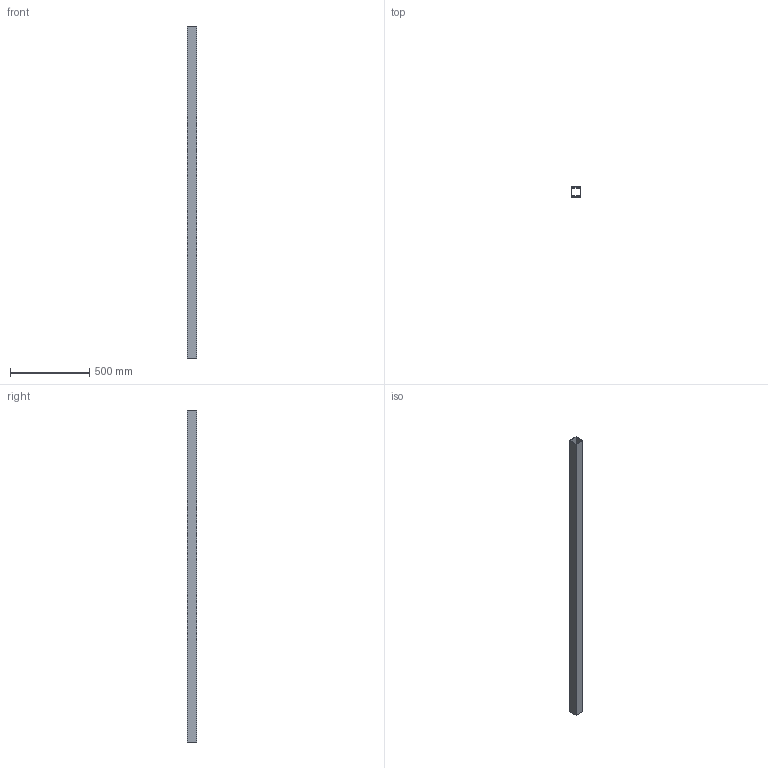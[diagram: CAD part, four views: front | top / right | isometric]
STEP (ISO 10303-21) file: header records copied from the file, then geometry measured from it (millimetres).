
FILE_DESCRIPTION(('Open CASCADE Model'),'2;1');
FILE_NAME('Open CASCADE Shape Model','2026-10-15T15:10:03',('Author'),( 'Open CASCADE'),'Open CASCADE STEP processor 8.0','Open CASCADE 8.0' ,'Unknown');
FILE_SCHEMA(('AUTOMOTIVE_DESIGN { 1 0 10303 214 1 1 1 1 }'));
Length unit declared in the file: millimetre
Products named in the file (1): SHS60x60x4_L2100000_P05 7
Bounding box: 60 x 60 x 2100 mm (x, y, z)
Volume: 1881600 mm3; surface area: 942592 mm2
Topology: 1 solids, 1 shells, 10 faces, 24 edges, 16 vertices
Faces by surface type: plane 10
Entity records: 614 total; most frequent: CARTESIAN_POINT 99, DIRECTION 94, LINE 72, VECTOR 72, ORIENTED_EDGE 48, PCURVE 48, DEFINITIONAL_REPRESENTATION 48, EDGE_CURVE 24
